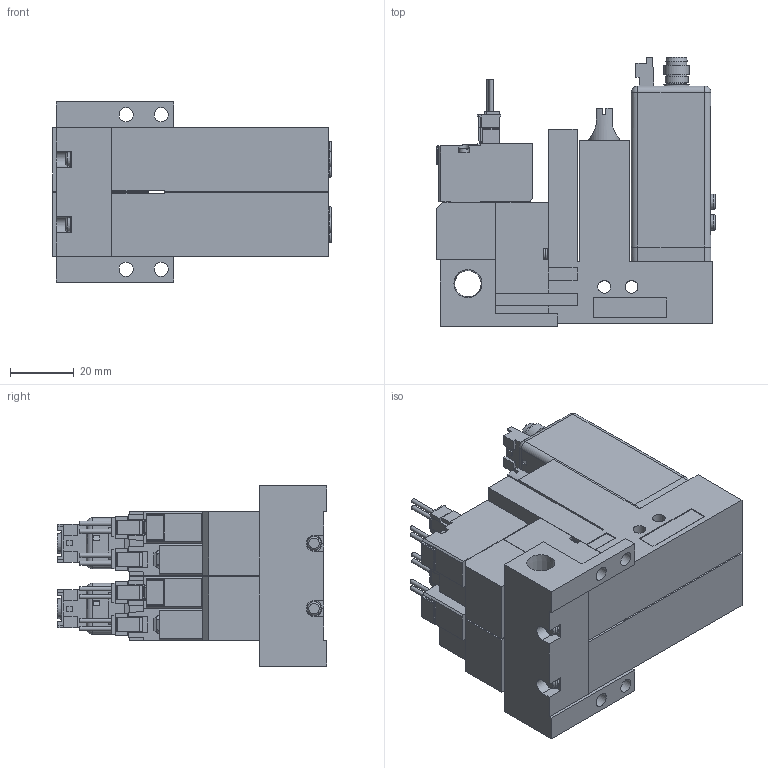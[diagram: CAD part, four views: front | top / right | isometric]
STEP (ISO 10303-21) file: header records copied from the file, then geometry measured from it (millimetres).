
FILE_DESCRIPTION(('STEP AP203'),'1');
FILE_NAME('22_22PL5ALR202.stp','2025-06-12T01:53:53',(' '),(' '),'Spatial InterOp 3D',' ',' ');
FILE_SCHEMA(('CONFIG_CONTROL_DESIGN'));
Length unit declared in the file: millimetre
Products named in the file (6): BMC22M※※※※22_22PL5ALR202; Solenoid valve A; Unit L; Base MR20R; MVS-202
Assembly tree (7 placements, depth 2):
  BMC22M※※※※22_22PL5ALR202
    Solenoid valve A  x2
    Unit L  x2
    Base MR20R
    MVS-202
    MVS-202
Bounding box: 87.5 x 84.6 x 56.5 mm (x, y, z)
Volume: 198248.1 mm3; surface area: 60829 mm2
Topology: 7 solids, 15 shells, 1557 faces, 4057 edges, 2650 vertices
Faces by surface type: plane 1306, cylinder 197, cone 34, torus 12, sphere 8
Full cylindrical faces by diameter (mm): 1 x8, 1.4 x8, 1.5 x2, 2.5 x2, 3 x8, 3.5 x8, 3.6 x2, 4 x4, 4.134 x2, 4.5 x12, 4.8 x6, 5 x4, 5.2 x2, 5.8 x4, 6 x4, 6.5 x6, 6.6 x2, 7 x2, 7.2 x2, 7.9 x2, 8 x4, 8.279 x1
Entity records: 36633 total; most frequent: CARTESIAN_POINT 6598, ORIENTED_EDGE 6018, DIRECTION 5885, EDGE_CURVE 3009, LINE 2557, VECTOR 2557, VERTEX_POINT 2037, AXIS2_PLACEMENT_3D 1664
